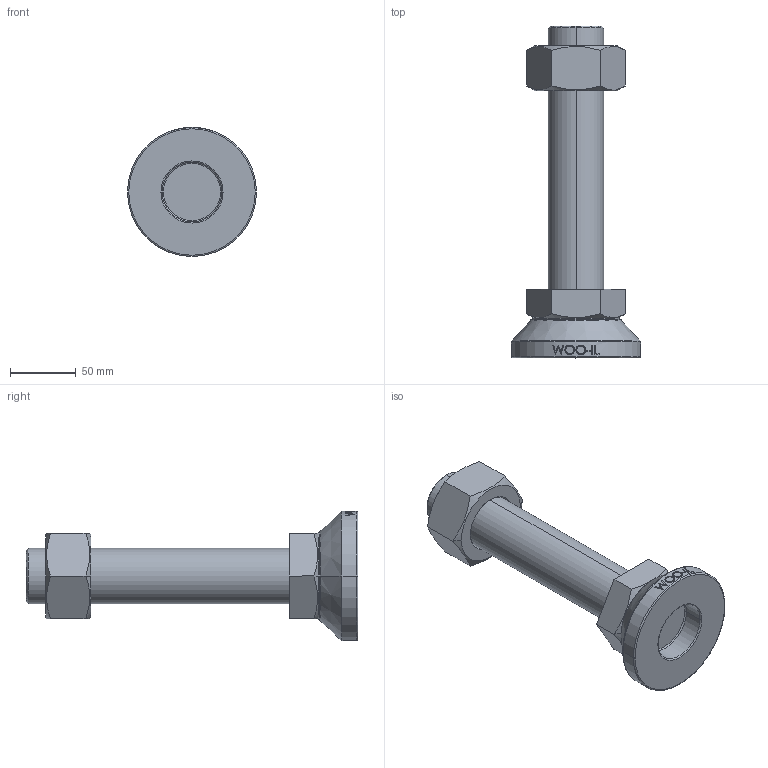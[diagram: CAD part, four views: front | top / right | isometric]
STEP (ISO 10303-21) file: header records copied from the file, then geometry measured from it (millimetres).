
FILE_DESCRIPTION (( 'STEP AP214' ), '1' );
FILE_NAME ('MF98-M42-200.step', '2021-02-03T08:24:29', ( '' ), ( '' ), 'SwSTEP 2.0', 'SolidWorks 2019', '' );
FILE_SCHEMA (( 'AUTOMOTIVE_DESIGN' ));
Length unit declared in the file: millimetre
Products named in the file (2): MF98-M42-200
Bounding box: 98 x 252 x 98 mm (x, y, z)
Volume: 594363 mm3; surface area: 77422.7 mm2
Topology: 3 solids, 3 shells, 106 faces, 243 edges, 154 vertices
Faces by surface type: plane 48, cylinder 18, bspline 16, cone 14, torus 10
Entity records: 4566 total; most frequent: CARTESIAN_POINT 2223, ORIENTED_EDGE 486, DIRECTION 439, EDGE_CURVE 243, AXIS2_PLACEMENT_3D 170, VERTEX_POINT 154, EDGE_LOOP 119, FACE_OUTER_BOUND 106
